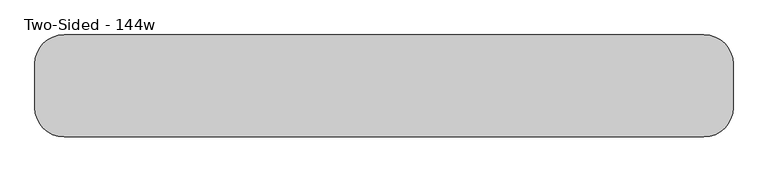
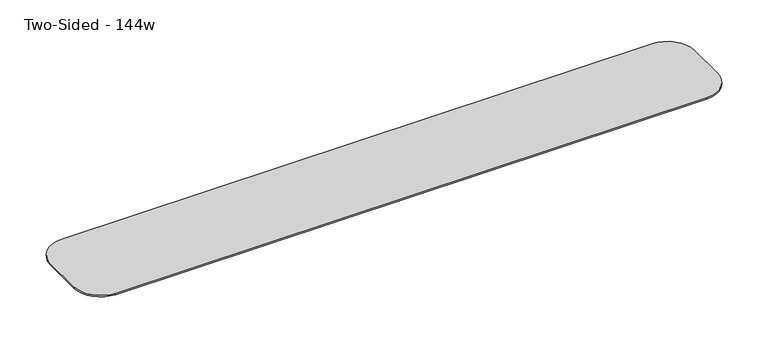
"""IFC4 building model written with IfcOpenShell, lengths in millimetres: furniture geometry, Haworth_Pergola_Accessory_SpanningTop : Two-Sided - 144w."""

from ifc_helpers import new_model, si_unit, frame, origin, place, context, project, spatial, polyline, circle_curve, outline, extrude, source, transform, mapped, element, save
from ifc_brep_helpers import plane_surface, cylinder_surface, revolved_surface, advanced_brep


def two_sided_144w_44061c4d(model_context):
    return source(origin(), model_context, "Body", "SolidModel", [
        extrude(outline(polyline([(-142.2292425, 673.1), (-142.2292425, 711.2), (-2.5292425, 711.2), (-2.5292425, 704.85), (-142.2292425, 673.1)])), frame((1521.789177, 0.0, 0.0), z_axis=(1.0, 0.0, 0.0), x_axis=(0.0, 1.0, 0.0)), (0.0, 0.0, 1.0), 82.55),
        extrude(outline(polyline([(-142.2292425, 673.1), (-142.2292425, 711.2), (-2.5292425, 711.2), (-2.5292425, 704.85), (-142.2292425, 673.1)])), frame((874.089177, 0.0, 0.0), z_axis=(1.0, 0.0, 0.0), x_axis=(0.0, 1.0, 0.0)), (0.0, 0.0, 1.0), 82.55),
        extrude(outline(polyline([(-142.2292425, 673.1), (-142.2292425, 711.2), (-2.5292425, 711.2), (-2.5292425, 704.85), (-142.2292425, 673.1)])), frame((226.389177, 0.0, 0.0), z_axis=(1.0, 0.0, 0.0), x_axis=(0.0, 1.0, 0.0)), (0.0, 0.0, 1.0), 82.55),
        extrude(outline(polyline([(-142.2292425, 673.1), (-142.2292425, 711.2), (-2.5292425, 711.2), (-2.5292425, 704.85), (-142.2292425, 673.1)])), frame((-421.310823, 0.0, 0.0), z_axis=(1.0, 0.0, 0.0), x_axis=(0.0, 1.0, 0.0)), (0.0, 0.0, 1.0), 82.55),
        extrude(outline(polyline([(-243.8292425, 673.1), (-383.5292425, 704.85), (-383.5292425, 711.2), (-243.8292425, 711.2), (-243.8292425, 673.1)])), frame((1521.789177, 0.0, 0.0), z_axis=(1.0, 0.0, 0.0), x_axis=(0.0, 1.0, 0.0)), (0.0, 0.0, 1.0), 82.55),
        extrude(outline(polyline([(-243.8292425, 673.1), (-383.5292425, 704.85), (-383.5292425, 711.2), (-243.8292425, 711.2), (-243.8292425, 673.1)])), frame((874.089177, 0.0, 0.0), z_axis=(1.0, 0.0, 0.0), x_axis=(0.0, 1.0, 0.0)), (0.0, 0.0, 1.0), 82.55),
        extrude(outline(polyline([(-243.8292425, 673.1), (-383.5292425, 704.85), (-383.5292425, 711.2), (-243.8292425, 711.2), (-243.8292425, 673.1)])), frame((226.389177, 0.0, 0.0), z_axis=(1.0, 0.0, 0.0), x_axis=(0.0, 1.0, 0.0)), (0.0, 0.0, 1.0), 82.55),
        extrude(outline(polyline([(-243.8292425, 673.1), (-383.5292425, 704.85), (-383.5292425, 711.2), (-243.8292425, 711.2), (-243.8292425, 673.1)])), frame((-421.310823, 0.0, 0.0), z_axis=(1.0, 0.0, 0.0), x_axis=(0.0, 1.0, 0.0)), (0.0, 0.0, 1.0), 82.55),
        extrude(outline(polyline([(-142.2292425, 673.1), (-142.2292425, 711.2), (-2.5292425, 711.2), (-2.5292425, 704.85), (-142.2292425, 673.1)])), frame((2169.489177, 0.0, 0.0), z_axis=(1.0, 0.0, 0.0), x_axis=(0.0, 1.0, 0.0)), (0.0, 0.0, 1.0), 82.55),
        extrude(outline(polyline([(-142.2292425, 673.1), (-142.2292425, 711.2), (-2.5292425, 711.2), (-2.5292425, 704.85), (-142.2292425, 673.1)])), frame((-1069.010823, 0.0, 0.0), z_axis=(1.0, 0.0, 0.0), x_axis=(0.0, 1.0, 0.0)), (0.0, 0.0, 1.0), 82.55),
        extrude(outline(polyline([(-243.8292425, 673.1), (-383.5292425, 704.85), (-383.5292425, 711.2), (-243.8292425, 711.2), (-243.8292425, 673.1)])), frame((2169.489177, 0.0, 0.0), z_axis=(1.0, 0.0, 0.0), x_axis=(0.0, 1.0, 0.0)), (0.0, 0.0, 1.0), 82.55),
        extrude(outline(polyline([(-243.8292425, 673.1), (-383.5292425, 704.85), (-383.5292425, 711.2), (-243.8292425, 711.2), (-243.8292425, 673.1)])), frame((-1069.010823, 0.0, 0.0), z_axis=(1.0, 0.0, 0.0), x_axis=(0.0, 1.0, 0.0)), (0.0, 0.0, 1.0), 82.55),
        advanced_brep(
        [(2267.914177, 73.6707575, 742.95), (-1084.885823, 73.6707575, 742.95), (-1237.285823, -78.7292425, 742.95), (-1237.285823, -307.3292425, 742.95), (-1084.885823, -459.7292425, 742.95), (2267.914177, -459.7292425, 742.95), (2420.314177, -307.3292425, 742.95), (2420.314177, -78.7292425, 742.95), (2369.514177, -307.3292425, 711.2), (2267.914177, -408.9292425, 711.2), (-1084.885823, -408.9292425, 711.2), (-1186.485823, -307.3292425, 711.2), (-1186.485823, -78.7292425, 711.2), (-1084.885823, 22.8707575, 711.2), (2267.914177, 22.8707575, 711.2), (2369.514177, -78.7292425, 711.2), (2267.914177, 73.6707575, 734.45116), (-1084.885823, 73.6707575, 734.45116), (-1237.285823, -78.7292425, 734.45116), (-1237.285823, -307.3292425, 734.45116), (-1084.885823, -459.7292425, 734.45116), (2267.914177, -459.7292425, 734.45116), (2420.314177, -307.3292425, 734.45116), (2420.314177, -78.7292425, 734.45116)],
        [
            (0, 1),
            (1, 2, circle_curve(frame((-1084.885823, -78.7292425, 742.95), z_axis=(0.0, 0.0, 1.0), x_axis=(1.0, 0.0, 0.0)), 152.4)),
            (2, 3),
            (3, 4, circle_curve(frame((-1084.885823, -307.3292425, 742.95), z_axis=(0.0, 0.0, 1.0), x_axis=(1.0, 0.0, 0.0)), 152.4)),
            (4, 5),
            (5, 6, circle_curve(frame((2267.914177, -307.3292425, 742.95), z_axis=(0.0, 0.0, 1.0), x_axis=(1.0, 0.0, 0.0)), 152.4)),
            (6, 7),
            (7, 0, circle_curve(frame((2267.914177, -78.7292425, 742.95), z_axis=(0.0, 0.0, 1.0), x_axis=(1.0, 0.0, 0.0)), 152.4)),
            (8, 9, circle_curve(frame((2267.914177, -307.3292425, 711.2), z_axis=(0.0, 0.0, -1.0), x_axis=(0.0, -1.0, 0.0)), 101.6)),
            (9, 10),
            (10, 11, circle_curve(frame((-1084.885823, -307.3292425, 711.2), z_axis=(0.0, 0.0, -1.0), x_axis=(-1.0, 0.0, 0.0)), 101.6)),
            (11, 12),
            (12, 13, circle_curve(frame((-1084.885823, -78.7292425, 711.2), z_axis=(0.0, 0.0, -1.0), x_axis=(0.0, 1.0, 0.0)), 101.6)),
            (13, 14),
            (14, 15, circle_curve(frame((2267.914177, -78.7292425, 711.2), z_axis=(0.0, 0.0, -1.0), x_axis=(1.0, 0.0, 0.0)), 101.6)),
            (15, 8),
            (0, 16),
            (16, 17),
            (17, 1),
            (2, 18),
            (18, 19),
            (19, 3),
            (4, 20),
            (20, 21),
            (21, 5),
            (6, 22),
            (22, 23),
            (23, 7),
            (17, 18, circle_curve(frame((-1084.885823, -78.7292425, 734.45116), z_axis=(0.0, 0.0, 1.0), x_axis=(1.0, 0.0, 0.0)), 152.4)),
            (19, 20, circle_curve(frame((-1084.885823, -307.3292425, 734.45116), z_axis=(0.0, 0.0, 1.0), x_axis=(1.0, 0.0, 0.0)), 152.4)),
            (21, 22, circle_curve(frame((2267.914177, -307.3292425, 734.45116), z_axis=(0.0, 0.0, 1.0), x_axis=(1.0, 0.0, 0.0)), 152.4)),
            (23, 16, circle_curve(frame((2267.914177, -78.7292425, 734.45116), z_axis=(0.0, 0.0, 1.0), x_axis=(1.0, 0.0, 0.0)), 152.4)),
            (8, 22),
            (21, 9),
            (15, 23),
            (18, 12),
            (11, 19),
            (10, 20),
            (14, 16),
            (13, 17),
        ],
        [
            plane_surface(frame((-1084.885823, 73.6707575, 742.95), z_axis=(0.0, 0.0, 1.0), x_axis=(-1.0, 0.0, 0.0))),
            plane_surface(frame((-1084.885823, 73.6707575, 711.2), z_axis=(0.0, 0.0, -1.0), x_axis=(1.0, 0.0, 0.0))),
            plane_surface(frame((2267.914177, 73.6707575, 742.95), z_axis=(0.0, 1.0, 0.0), x_axis=(0.0, 0.0, -1.0))),
            plane_surface(frame((-1237.285823, -78.7292425, 742.95), z_axis=(-1.0, 0.0, 0.0), x_axis=(0.0, 0.0, -1.0))),
            plane_surface(frame((-1084.885823, -459.7292425, 742.95), z_axis=(0.0, -1.0, 0.0), x_axis=(0.0, 0.0, -1.0))),
            plane_surface(frame((2420.314177, -307.3292425, 742.95), z_axis=(1.0, 0.0, 0.0), x_axis=(0.0, 0.0, -1.0))),
            cylinder_surface(frame((-1084.885823, -78.7292425, 711.2), z_axis=(0.0, 0.0, 1.0), x_axis=(1.0, 0.0, 0.0)), 152.4),
            cylinder_surface(frame((-1084.885823, -307.3292425, 711.2), z_axis=(0.0, 0.0, 1.0), x_axis=(1.0, 0.0, 0.0)), 152.4),
            cylinder_surface(frame((2267.914177, -307.3292425, 711.2), z_axis=(0.0, 0.0, 1.0), x_axis=(1.0, 0.0, 0.0)), 152.4),
            cylinder_surface(frame((2267.914177, -78.7292425, 711.2), z_axis=(0.0, 0.0, 1.0), x_axis=(1.0, 0.0, 0.0)), 152.4),
            revolved_surface(polyline([(2267.914177, -325.686944, 673.1), (2267.914177, -459.7292425, 734.45116)]), (2267.914177, -307.3292425, 742.95), (0.0, 0.0, 1.0)),
            plane_surface(frame((2420.314177, -307.3292425, 734.45116), z_axis=(0.4161787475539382, 0.0, -0.9092828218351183), x_axis=(0.0, 1.0, 0.0))),
            plane_surface(frame((-1237.285823, -78.7292425, 734.45116), z_axis=(-0.4161787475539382, 0.0, -0.9092828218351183), x_axis=(0.0, -1.0, 0.0))),
            revolved_surface(polyline([(-1103.2435246, -307.3292425, 673.1), (-1237.285823, -307.3292425, 734.45116)]), (-1084.885823, -307.3292425, 742.95), (0.0, 0.0, 1.0)),
            plane_surface(frame((-1084.885823, -459.7292425, 734.45116), z_axis=(0.0, -0.4161787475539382, -0.9092828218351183), x_axis=(1.0, 0.0, 0.0))),
            revolved_surface(polyline([(2286.2718785, -78.7292425, 673.1), (2420.314177, -78.7292425, 734.45116)]), (2267.914177, -78.7292425, 742.95), (0.0, 0.0, 1.0)),
            plane_surface(frame((2267.914177, 73.6707575, 734.45116), z_axis=(0.0, 0.4161787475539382, -0.9092828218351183), x_axis=(-1.0, 0.0, 0.0))),
            revolved_surface(polyline([(-1084.885823, -60.3715409, 673.1), (-1084.885823, 73.6707575, 734.45116)]), (-1084.885823, -78.7292425, 742.95), (0.0, 0.0, 1.0)),
        ],
        [
            (0, [[1, 2, 3, 4, 5, 6, 7, 8]]),
            (1, [[9, 10, 11, 12, 13, 14, 15, 16]]),
            (2, [[-1, 17, 18, 19]]),
            (3, [[-3, 20, 21, 22]]),
            (4, [[-5, 23, 24, 25]]),
            (5, [[-7, 26, 27, 28]]),
            (6, [[-2, -19, 29, -20]]),
            (7, [[-4, -22, 30, -23]]),
            (8, [[-6, -25, 31, -26]]),
            (9, [[-8, -28, 32, -17]]),
            (10, [[33, -31, 34, -9]]),
            (11, [[-33, -16, 35, -27]]),
            (12, [[36, -12, 37, -21]]),
            (13, [[-37, -11, 38, -30]]),
            (14, [[-38, -10, -34, -24]]),
            (15, [[-35, -15, 39, -32]]),
            (16, [[-39, -14, 40, -18]]),
            (17, [[-40, -13, -36, -29]]),
        ],
    ),
    ])


if __name__ == "__main__":
    model = new_model("IFC4")
    model_context = context("Model", 3, world=origin())
    ifc_project = project(units=[si_unit("LENGTHUNIT", "METRE", prefix="MILLI")], contexts=[model_context])
    site = spatial("IfcSite", under=ifc_project)
    building = spatial("IfcBuilding", under=site)
    placement = place(None, origin())
    two_sided_144w_shape = two_sided_144w_44061c4d(model_context)
    element("IfcFurniture", 1, ObjectType="Haworth_Pergola_Accessory_SpanningTop : Two-Sided - 144w", at=placement, inside=building, context=model_context, shape_type="MappedRepresentation", body=[
        mapped(two_sided_144w_shape, transform((0.0, 0.0, 0.0), x_axis=(1.0, 0.0, 0.0), y_axis=(0.0, 1.0, 0.0), z_axis=(0.0, 0.0, 1.0))),
    ])
    save(model, "model.ifc")
